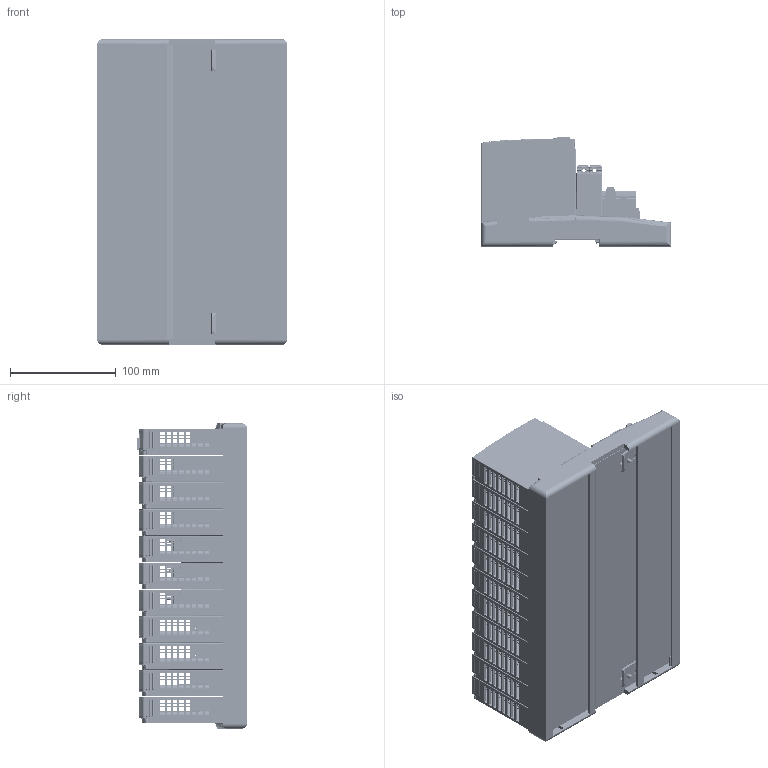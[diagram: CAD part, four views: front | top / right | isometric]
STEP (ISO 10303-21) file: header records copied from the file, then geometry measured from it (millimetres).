
FILE_DESCRIPTION((''),'2;1');
FILE_NAME('2500_10W_NEW_IGESFILE','2012-03-06T',('chrisloe'),(''),'PRO/ENGINEER BY PARAMETRIC TECHNOLOGY CORPORATION, 2010480','PRO/ENGINEER BY PARAMETRIC TECHNOLOGY CORPORATION, 2010480','');
FILE_SCHEMA(('CONFIG_CONTROL_DESIGN'));
Products named in the file (1): 2500_10W_NEW_IGESFILE
Bounding box: 180.4 x 104.1 x 289.4 mm (x, y, z)
Volume: 1107836.5 mm3; surface area: 1022634.5 mm2
Topology: 40 solids, 47 shells, 39624 faces, 108466 edges, 69177 vertices
Faces by surface type: plane 27815, cylinder 7004, cone 1451, torus 1270, bspline 1253, sphere 791, extrusion 40
Entity records: 1318229 total; most frequent: CARTESIAN_POINT 333676, ORIENTED_EDGE 216704, DIRECTION 187342, EDGE_CURVE 108356, VECTOR 75218, LINE 75178, VERTEX_POINT 69175, AXIS2_PLACEMENT_3D 56062
